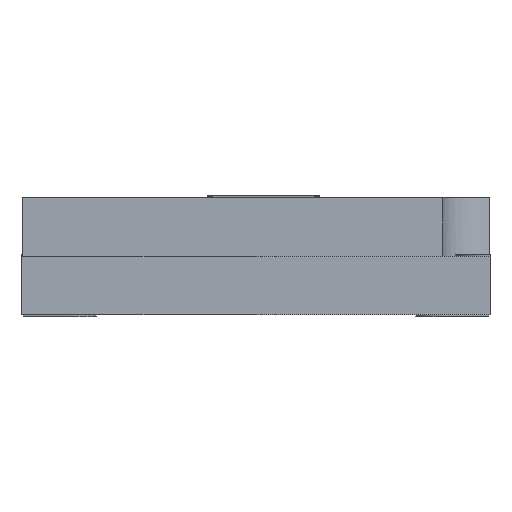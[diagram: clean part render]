
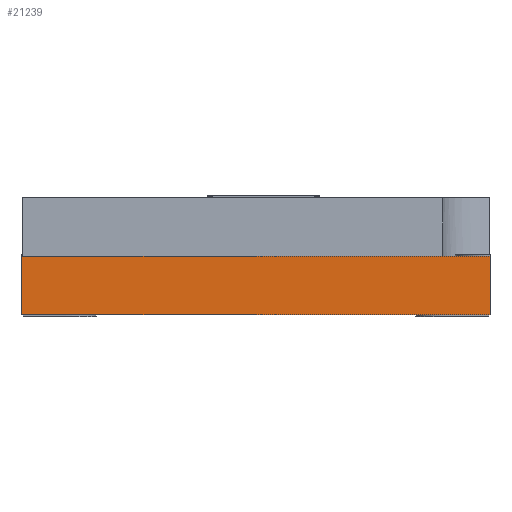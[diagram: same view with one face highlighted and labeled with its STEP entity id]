
A CAD part, front view. The second image highlights one B-rep face of the part: STEP entity #21239.
In plain terms, the highlighted planar face has unit normal (0, -1, 0).
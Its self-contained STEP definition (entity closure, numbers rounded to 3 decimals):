
#1185=FACE_OUTER_BOUND('',#2238,.T.);
#2238=EDGE_LOOP('',(#18778,#18779,#18780,#18781));
#5032=LINE('',#33225,#7956);
#5093=LINE('',#33392,#8017);
#5139=LINE('',#33500,#8063);
#5143=LINE('',#33507,#8067);
#7956=VECTOR('',#27104,1000.);
#8017=VECTOR('',#27255,1000.);
#8063=VECTOR('',#27335,1000.);
#8067=VECTOR('',#27341,1000.);
#10035=VERTEX_POINT('',#33222);
#10036=VERTEX_POINT('',#33224);
#10096=VERTEX_POINT('',#33389);
#10097=VERTEX_POINT('',#33391);
#12944=EDGE_CURVE('',#10035,#10036,#5032,.T.);
#13031=EDGE_CURVE('',#10097,#10096,#5093,.T.);
#13090=EDGE_CURVE('',#10035,#10097,#5139,.T.);
#13094=EDGE_CURVE('',#10036,#10096,#5143,.T.);
#18778=ORIENTED_EDGE('',*,*,#13031,.T.);
#18779=ORIENTED_EDGE('',*,*,#13094,.F.);
#18780=ORIENTED_EDGE('',*,*,#12944,.F.);
#18781=ORIENTED_EDGE('',*,*,#13090,.T.);
#20236=PLANE('',#22368);
#21239=ADVANCED_FACE('',(#1185),#20236,.F.);
#22368=AXIS2_PLACEMENT_3D('',#33506,#27339,#27340);
#27104=DIRECTION('',(1.,0.,0.));
#27255=DIRECTION('',(1.,0.,0.));
#27335=DIRECTION('',(0.,0.,-1.));
#27339=DIRECTION('center_axis',(0.,1.,0.));
#27340=DIRECTION('ref_axis',(0.,0.,1.));
#27341=DIRECTION('',(0.,0.,-1.));
#33222=CARTESIAN_POINT('',(27.8,30.075,1.));
#33224=CARTESIAN_POINT('',(35.8,30.075,1.));
#33225=CARTESIAN_POINT('',(0.,30.075,1.));
#33389=CARTESIAN_POINT('',(35.8,30.075,0.));
#33391=CARTESIAN_POINT('',(27.8,30.075,0.));
#33392=CARTESIAN_POINT('',(0.,30.075,0.));
#33500=CARTESIAN_POINT('',(27.8,30.075,1.));
#33506=CARTESIAN_POINT('Origin',(0.,30.075,1.));
#33507=CARTESIAN_POINT('',(35.8,30.075,1.));
